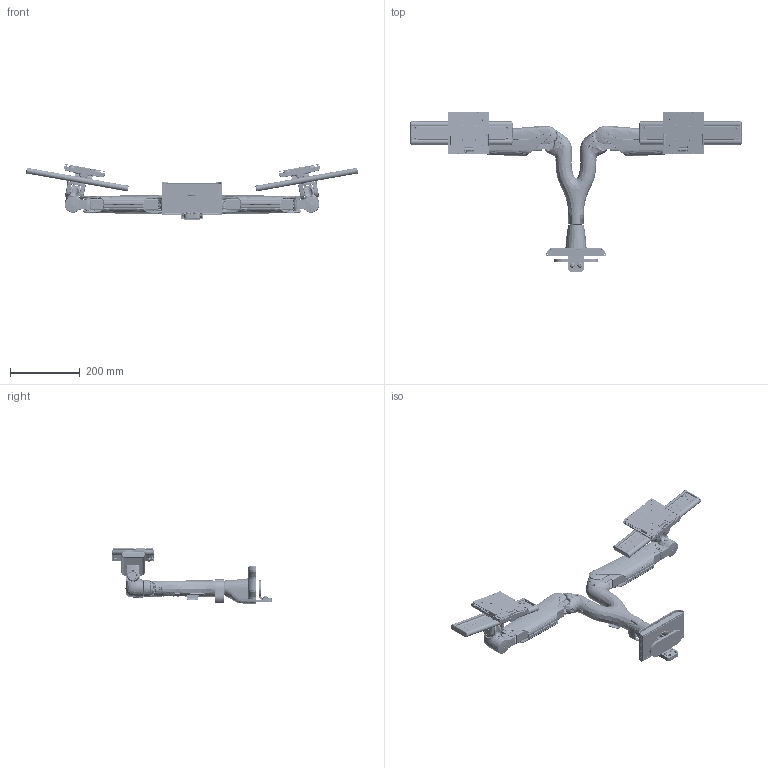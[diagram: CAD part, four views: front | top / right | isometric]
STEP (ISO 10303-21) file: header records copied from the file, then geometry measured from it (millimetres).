
FILE_DESCRIPTION(/* description */ (''),/* implementation_level */ '2;1');
FILE_NAME(/* name */ 'E5-D2_Simplify_1.stp',/* time_stamp */ '2024-04-18T14:04:35-04:00',/* author */ ('sbowman'),/* organization */ (''),/* preprocessor_version */ 'ST-DEVELOPER v19.2',/* originating_system */ 'Autodesk Inventor 2023',/* authorisation */ '');
FILE_SCHEMA (('AUTOMOTIVE_DESIGN { 1 0 10303 214 3 1 1 }'));
Products named in the file (1): Dual Dynamic Assembly_Simplify_1
Bounding box: 954.23 x 458.29 x 160.61 mm (x, y, z)
Volume: 2364533.1 mm3; surface area: 1206595.4 mm2
Topology: 17 solids, 17 shells, 34065 faces, 85271 edges, 52086 vertices
Faces by surface type: plane 12281, bspline 12142, cylinder 5991, sphere 1268, cone 1244, torus 1139
Full cylindrical faces by diameter (mm): 1.76 x12, 2.013 x12, 2.35 x80, 2.459 x16, 3 x60, 3.091 x24, 3.242 x14, 3.4 x8, 4 x32, 4.134 x4, 4.2 x4, 4.5 x16, 4.6 x2, 5 x30, 5.5 x4, 6 x18, 6.1 x36, 6.3 x4, 6.376 x178, 6.4 x8, 6.5 x4, 6.647 x39, 6.655 x4, 7.5 x6, 7.87 x8, 8 x152, 8.2 x2, 8.4 x2, 9 x8, 9.3 x2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
Entity records: 1542857 total; most frequent: CARTESIAN_POINT 807336, ORIENTED_EDGE 170004, DIRECTION 124359, EDGE_CURVE 85002, VERTEX_POINT 52085, AXIS2_PLACEMENT_3D 43623, LINE 37113, VECTOR 37113
